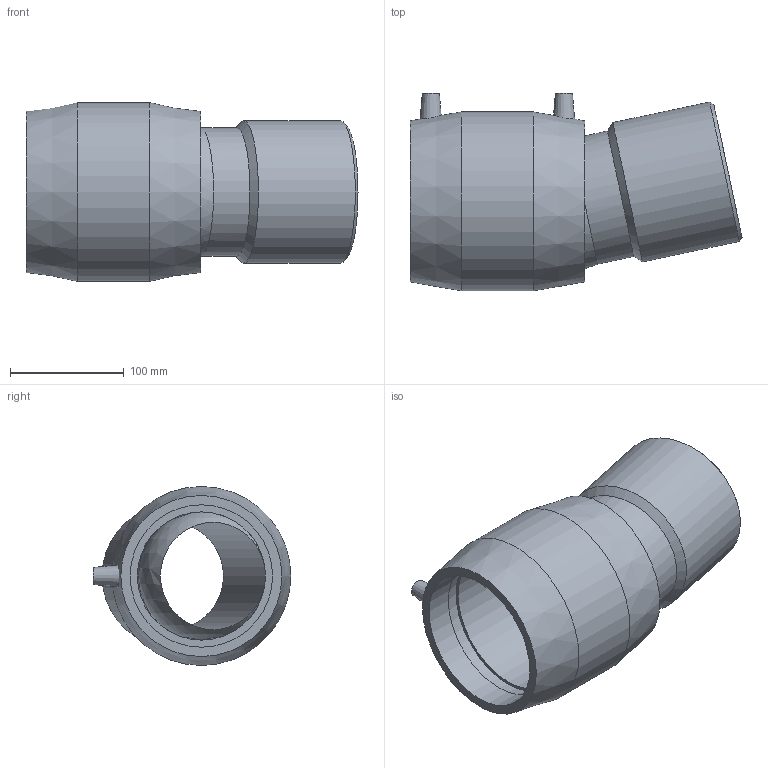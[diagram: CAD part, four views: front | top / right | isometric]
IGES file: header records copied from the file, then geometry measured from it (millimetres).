
Global section: file name: 4947D4125.ipt; native system: Autodesk Inventor 2015; preprocessor: unknown; author: KIM; date: 20171106.094210; units: millimetre
Bounding box: 291.35 x 173.5 x 157 mm (x, y, z)
Volume: 1776458.4 mm3; surface area: 255494.1 mm2
Topology: 1 solids, 1 shells, 32 faces, 74 edges, 49 vertices
Faces by surface type: plane 11, revolution 7, cone 6, cylinder 6, sphere 2
Full cylindrical faces by diameter (mm): 4 x2, 112.5 x1, 125 x1, 157 x1
